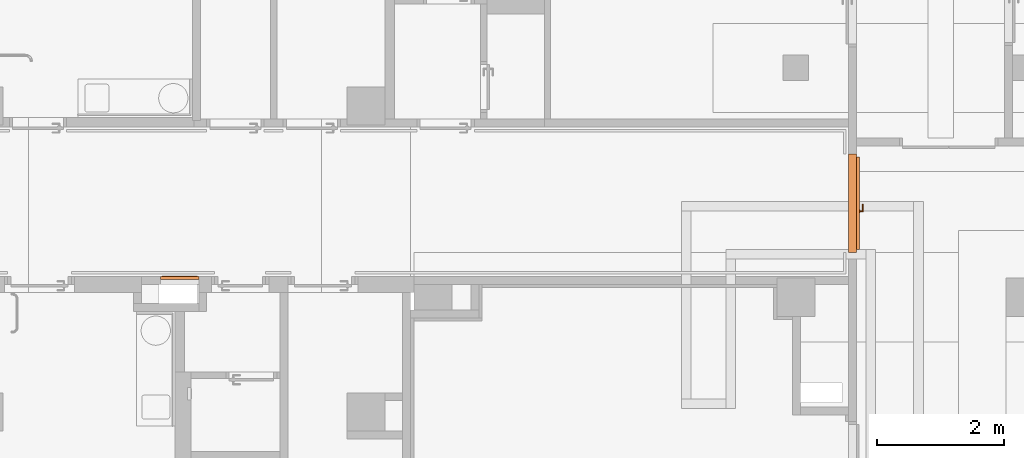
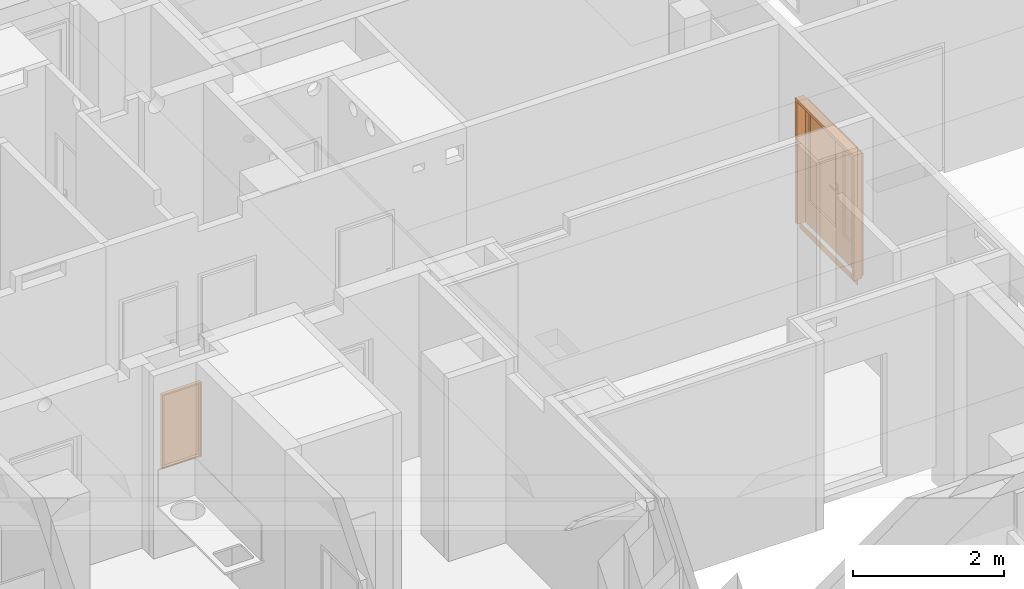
# One storey, part 84 of 84: 2 proxies.
"""IFC4 building model written with IfcOpenShell, lengths in metres."""

from ifc_helpers import new_model, entity, si_unit, converted_unit, derived_unit, frame, origin, origin_with_axes, place, context, subcontext, project, spatial, closed_shell, open_shell, faceted_brep, surface_model, source, transform, mapped, material, element, save


model = new_model("IFC4")

# Units and contexts
model_context = context("Model", 3, precision=1e-05, world=origin())
body_context = subcontext(model_context, "Body", "Model", "MODEL_VIEW")
ifc_project = project(units=[si_unit("LENGTHUNIT", "METRE"), si_unit("AREAUNIT", "SQUARE_METRE"), si_unit("VOLUMEUNIT", "CUBIC_METRE"), si_unit("MASSUNIT", "GRAM", prefix="KILO"), converted_unit("PLANEANGLEUNIT", "DEGREE", entity("IfcPlaneAngleMeasure", 0.0174532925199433), si_unit("PLANEANGLEUNIT", "RADIAN"), dimensions=[0, 0, 0, 0, 0, 0, 0]), derived_unit("THERMALTRANSMITTANCEUNIT", [(si_unit("POWERUNIT", "WATT"), 1), (si_unit("THERMODYNAMICTEMPERATUREUNIT", "KELVIN"), -1), (si_unit("LENGTHUNIT", "METRE"), -2)]), derived_unit("VOLUMETRICFLOWRATEUNIT", [(si_unit("LENGTHUNIT", "METRE"), 3), (converted_unit("TIMEUNIT", "hour", entity("IfcTimeMeasure", 3600.0), si_unit("TIMEUNIT", "SECOND"), dimensions=[0, 0, 1, 0, 0, 0, 0]), -1), (si_unit("LENGTHUNIT", "METRE"), -1)])], contexts=[model_context])

# Site, building, storey
site_placement = place(None, origin())
site = spatial("IfcSite", under=ifc_project, at=site_placement, Name="3. ASŘ", CompositionType="ELEMENT")
building_placement = place(site_placement, origin())
building = spatial("IfcBuilding", under=site, at=building_placement, Name="Pavilon C", CompositionType="ELEMENT")
storey_placement = place(building_placement, frame((0.0, 0.0, -3.3)))
storey = spatial("IfcBuildingStorey", under=building, at=storey_placement, Name="Půdorys 1.PP", CompositionType="ELEMENT", Elevation=-3.3)

# Proxies
ifc_material = material(Name="REVIZNÍ DVÍŘKA")
shared_shape_1 = source(origin_with_axes(), body_context, "Body", "Brep", [
    faceted_brep([(0.0, 0.0600000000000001, 1.2), (0.0, 0.06, 4.91096680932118e-19), (0.02, 0.06, 4.91096680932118e-19), (0.02, 0.0600000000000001, 1.2), (0.0, 0.01, 6.61433067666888e-18), (0.0, 0.0100000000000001, 1.2), (0.02, 0.0100000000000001, 1.2), (0.02, 0.01, 6.61433067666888e-18)], [[[0, 1, 2, 3]], [[4, 5, 6, 7]], [[1, 0, 5, 4]], [[2, 1, 4, 7]], [[3, 2, 7, 6]], [[0, 3, 6, 5]]], orient=[[False], [False], [False], [False], [False], [False]]),
    faceted_brep([(0.58, 0.0600000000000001, 1.2), (0.58, 0.06, 4.91096680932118e-19), (0.6, 0.06, 4.91096680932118e-19), (0.6, 0.0600000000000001, 1.2), (0.58, 0.01, 6.61433067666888e-18), (0.58, 0.0100000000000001, 1.2), (0.6, 0.0100000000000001, 1.2), (0.6, 0.01, 6.61433067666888e-18)], [[[0, 1, 2, 3]], [[4, 5, 6, 7]], [[1, 0, 5, 4]], [[2, 1, 4, 7]], [[3, 2, 7, 6]], [[0, 3, 6, 5]]], orient=[[False], [False], [False], [False], [False], [False]]),
    faceted_brep([(0.02, 0.06, 0.02), (0.02, 0.06, 4.91096680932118e-19), (0.58, 0.06, 4.91096680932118e-19), (0.58, 0.06, 0.02), (0.02, 0.01, 6.61433067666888e-18), (0.02, 0.01, 0.02), (0.58, 0.01, 0.02), (0.58, 0.01, 6.61433067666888e-18)], [[[0, 1, 2, 3]], [[4, 5, 6, 7]], [[1, 0, 5, 4]], [[2, 1, 4, 7]], [[3, 2, 7, 6]], [[0, 3, 6, 5]]], orient=[[False], [False], [False], [False], [False], [False]]),
    faceted_brep([(0.02, 0.0600000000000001, 1.2), (0.02, 0.0600000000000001, 1.18), (0.58, 0.0600000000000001, 1.18), (0.58, 0.0600000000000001, 1.2), (0.02, 0.0100000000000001, 1.18), (0.02, 0.0100000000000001, 1.2), (0.58, 0.0100000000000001, 1.2), (0.58, 0.0100000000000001, 1.18)], [[[0, 1, 2, 3]], [[4, 5, 6, 7]], [[1, 0, 5, 4]], [[2, 1, 4, 7]], [[3, 2, 7, 6]], [[0, 3, 6, 5]]], orient=[[False], [False], [False], [False], [False], [False]]),
    faceted_brep([(0.02, 0.0100000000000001, 1.18), (0.02, 0.01, 0.02), (0.58, 0.01, 0.02), (0.58, 0.0100000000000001, 1.18), (0.02, 0.0, 0.02), (0.02, 1.4210854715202e-16, 1.18), (0.58, 1.4210854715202e-16, 1.18), (0.58, 0.0, 0.02)], [[[0, 1, 2, 3]], [[4, 5, 6, 7]], [[1, 0, 5, 4]], [[2, 1, 4, 7]], [[3, 2, 7, 6]], [[0, 3, 6, 5]]], orient=[[False], [False], [False], [False], [False], [False]]),
])
proxy_1_placement = place(storey_placement, frame((21.375, 7.535, 1.0), z_axis=(0.0, 0.0, 1.0), x_axis=(-1.0, 1.22464679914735e-16, 0.0)))
element("IfcBuildingElementProxy", 1, at=proxy_1_placement, inside=storey, material=ifc_material, Name="I.Z6", context=body_context, shape_type="MappedRepresentation", body=[
    mapped(shared_shape_1, transform((0.0, 0.0, 0.0), x_axis=(1.0, 0.0, 0.0), y_axis=(0.0, 1.0, 0.0), z_axis=(0.0, 0.0, 1.0), scale=1.0)),
])
shared_shape_2 = source(origin_with_axes(), body_context, "Body", "SurfaceModel", [
    surface_model("IfcShellBasedSurfaceModel", [(0.0, 0.0625, 0.0), (1.55, 0.0625, 0.0), (1.55, 0.0625, 0.1), (0.0, 0.0625, 0.1)], [open_shell([[[0, 1, 2, 3]]], orient=[[False]])]),
    surface_model("IfcShellBasedSurfaceModel", [(0.0, 0.125, 2.12), (0.0, 0.125, 0.101), (0.05, 0.125, 0.101), (0.05, 0.125, 2.12), (0.0, 0.0, 0.101), (0.0, 2.41584530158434e-16, 2.12), (0.05, 2.41584530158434e-16, 2.12), (0.05, 0.0, 0.101)], [closed_shell([[[0, 1, 2, 3]], [[4, 5, 6, 7]], [[1, 0, 5, 4]], [[2, 1, 4, 7]], [[3, 2, 7, 6]], [[0, 3, 6, 5]]], orient=[[False], [False], [False], [False], [False], [False]])]),
    surface_model("IfcShellBasedSurfaceModel", [(1.5, 0.125, 2.12), (1.5, 0.125, 0.101), (1.55, 0.125, 0.101), (1.55, 0.125, 2.12), (1.5, 0.0, 0.101), (1.5, 2.41584530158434e-16, 2.12), (1.55, 2.41584530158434e-16, 2.12), (1.55, 0.0, 0.101)], [closed_shell([[[0, 1, 2, 3]], [[4, 5, 6, 7]], [[1, 0, 5, 4]], [[2, 1, 4, 7]], [[3, 2, 7, 6]], [[0, 3, 6, 5]]], orient=[[False], [False], [False], [False], [False], [False]])]),
    surface_model("IfcShellBasedSurfaceModel", [(0.05, 0.125, 2.12), (0.05, 0.125, 2.07), (1.5, 0.125, 2.07), (1.5, 0.125, 2.12), (0.05, 2.41584530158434e-16, 2.07), (0.05, 2.41584530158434e-16, 2.12), (1.5, 2.41584530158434e-16, 2.12), (1.5, 2.41584530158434e-16, 2.07)], [closed_shell([[[0, 1, 2, 3]], [[4, 5, 6, 7]], [[1, 0, 5, 4]], [[2, 1, 4, 7]], [[3, 2, 7, 6]], [[0, 3, 6, 5]]], orient=[[False], [False], [False], [False], [False], [False]])]),
    surface_model("IfcShellBasedSurfaceModel", [(0.05, 0.175, 2.07), (0.05, 0.175, 0.101), (0.15, 0.175, 0.101), (0.15, 0.175, 2.07), (0.05, 0.125, 0.101), (0.05, 0.125, 2.07), (0.15, 0.125, 2.07), (0.15, 0.125, 0.101)], [closed_shell([[[0, 1, 2, 3]], [[4, 5, 6, 7]], [[1, 0, 5, 4]], [[2, 1, 4, 7]], [[3, 2, 7, 6]], [[0, 3, 6, 5]]], orient=[[False], [False], [False], [False], [False], [False]])]),
    surface_model("IfcShellBasedSurfaceModel", [(0.85, 0.175, 2.07), (0.85, 0.175, 0.101), (0.95, 0.175, 0.101), (0.95, 0.175, 2.07), (0.85, 0.125, 0.101), (0.85, 0.125, 2.07), (0.95, 0.125, 2.07), (0.95, 0.125, 0.101)], [closed_shell([[[0, 1, 2, 3]], [[4, 5, 6, 7]], [[1, 0, 5, 4]], [[2, 1, 4, 7]], [[3, 2, 7, 6]], [[0, 3, 6, 5]]], orient=[[False], [False], [False], [False], [False], [False]])]),
    surface_model("IfcShellBasedSurfaceModel", [(0.15, 0.175, 0.501), (0.15, 0.175, 0.101), (0.85, 0.175, 0.101), (0.85, 0.175, 0.501), (0.15, 0.125, 0.101), (0.15, 0.125, 0.501), (0.85, 0.125, 0.501), (0.85, 0.125, 0.101)], [closed_shell([[[0, 1, 2, 3]], [[4, 5, 6, 7]], [[1, 0, 5, 4]], [[2, 1, 4, 7]], [[3, 2, 7, 6]], [[0, 3, 6, 5]]], orient=[[False], [False], [False], [False], [False], [False]])]),
    surface_model("IfcShellBasedSurfaceModel", [(0.15, 0.175, 2.07), (0.15, 0.175, 1.97), (0.85, 0.175, 1.97), (0.85, 0.175, 2.07), (0.15, 0.125, 1.97), (0.15, 0.125, 2.07), (0.85, 0.125, 2.07), (0.85, 0.125, 1.97)], [closed_shell([[[0, 1, 2, 3]], [[4, 5, 6, 7]], [[1, 0, 5, 4]], [[2, 1, 4, 7]], [[3, 2, 7, 6]], [[0, 3, 6, 5]]], orient=[[False], [False], [False], [False], [False], [False]])]),
    surface_model("IfcShellBasedSurfaceModel", [(0.875, 0.125, 1.226), (0.875, 0.125, 1.011), (0.925, 0.125, 1.011), (0.925, 0.125, 1.226), (0.875, 0.115, 1.011), (0.875, 0.115, 1.226), (0.925, 0.115, 1.226), (0.925, 0.115, 1.011)], [closed_shell([[[0, 1, 2, 3]], [[4, 5, 6, 7]], [[1, 0, 5, 4]], [[2, 1, 4, 7]], [[3, 2, 7, 6]], [[0, 3, 6, 5]]], orient=[[False], [False], [False], [False], [False], [False]])]),
    surface_model("IfcShellBasedSurfaceModel", [(0.9, 0.115, 1.161), (0.895, 0.115, 1.15966025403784), (0.891339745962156, 0.115, 1.156), (0.89, 0.115, 1.151), (0.891339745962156, 0.115, 1.146), (0.895, 0.115, 1.14233974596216), (0.9, 0.115, 1.141), (0.905, 0.115, 1.14233974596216), (0.908660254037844, 0.115, 1.146), (0.91, 0.115, 1.151), (0.908660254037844, 0.115, 1.156), (0.905, 0.115, 1.15966025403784), (0.905, 0.0700000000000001, 1.15966025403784), (0.9, 0.0750000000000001, 1.161), (0.908660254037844, 0.0663397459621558, 1.156), (0.91, 0.0650000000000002, 1.151), (0.908660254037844, 0.0663397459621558, 1.146), (0.905, 0.0700000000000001, 1.14233974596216), (0.9, 0.0750000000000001, 1.141), (0.895, 0.0800000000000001, 1.14233974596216), (0.891339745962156, 0.0836602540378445, 1.146), (0.89, 0.0850000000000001, 1.151), (0.891339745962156, 0.0836602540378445, 1.156), (0.895, 0.0800000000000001, 1.15966025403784), (0.785, 0.0700000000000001, 1.15966025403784), (0.785, 0.0750000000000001, 1.161), (0.785, 0.0663397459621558, 1.156), (0.785, 0.0650000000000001, 1.151), (0.785, 0.0663397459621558, 1.146), (0.785, 0.0700000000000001, 1.14233974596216), (0.785, 0.0750000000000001, 1.141), (0.785, 0.0800000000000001, 1.14233974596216), (0.785, 0.0836602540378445, 1.146), (0.785, 0.0850000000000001, 1.151), (0.785, 0.0836602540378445, 1.156), (0.785, 0.0800000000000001, 1.15966025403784)], [open_shell([[[0, 1, 2, 3, 4, 5, 6, 7, 8, 9, 10, 11]], [[0, 11, 12, 13]], [[11, 10, 14, 12]], [[10, 9, 15, 14]], [[9, 8, 16, 15]], [[8, 7, 17, 16]], [[7, 6, 18, 17]], [[6, 5, 19, 18]], [[5, 4, 20, 19]], [[4, 3, 21, 20]], [[3, 2, 22, 21]], [[2, 1, 23, 22]], [[1, 0, 13, 23]], [[13, 12, 24, 25]], [[12, 14, 26, 24]], [[14, 15, 27, 26]], [[15, 16, 28, 27]], [[16, 17, 29, 28]], [[17, 18, 30, 29]], [[18, 19, 31, 30]], [[19, 20, 32, 31]], [[20, 21, 33, 32]], [[21, 22, 34, 33]], [[22, 23, 35, 34]], [[23, 13, 25, 35]]], orient=[[False], [False], [False], [False], [False], [False], [False], [False], [False], [False], [False], [False], [False], [False], [False], [False], [False], [False], [False], [False], [False], [False], [False], [False], [False]])]),
    surface_model("IfcShellBasedSurfaceModel", [(0.875, 0.175, 1.226), (0.925, 0.175, 1.226), (0.925, 0.175, 1.011), (0.875, 0.175, 1.011), (0.875, 0.185, 1.011), (0.925, 0.185, 1.011), (0.925, 0.185, 1.226), (0.875, 0.185, 1.226)], [closed_shell([[[0, 1, 2, 3]], [[4, 5, 6, 7]], [[3, 4, 7, 0]], [[2, 5, 4, 3]], [[1, 6, 5, 2]], [[0, 7, 6, 1]]], orient=[[False], [False], [False], [False], [False], [False]])]),
    surface_model("IfcShellBasedSurfaceModel", [(0.9, 0.185, 1.161), (0.905, 0.185, 1.15966025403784), (0.908660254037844, 0.185, 1.156), (0.91, 0.185, 1.151), (0.908660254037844, 0.185, 1.146), (0.905, 0.185, 1.14233974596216), (0.9, 0.185, 1.141), (0.895, 0.185, 1.14233974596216), (0.891339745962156, 0.185, 1.146), (0.89, 0.185, 1.151), (0.891339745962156, 0.185, 1.156), (0.895, 0.185, 1.15966025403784), (0.9, 0.225, 1.161), (0.905, 0.23, 1.15966025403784), (0.908660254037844, 0.233660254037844, 1.156), (0.91, 0.235, 1.151), (0.908660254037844, 0.233660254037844, 1.146), (0.905, 0.23, 1.14233974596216), (0.9, 0.225, 1.141), (0.895, 0.22, 1.14233974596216), (0.891339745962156, 0.216339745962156, 1.146), (0.89, 0.215, 1.151), (0.891339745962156, 0.216339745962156, 1.156), (0.895, 0.22, 1.15966025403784), (0.785, 0.225, 1.161), (0.785, 0.23, 1.15966025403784), (0.785, 0.233660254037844, 1.156), (0.785, 0.235, 1.151), (0.785, 0.233660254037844, 1.146), (0.785, 0.23, 1.14233974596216), (0.785, 0.225, 1.141), (0.785, 0.22, 1.14233974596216), (0.785, 0.216339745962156, 1.146), (0.785, 0.215, 1.151), (0.785, 0.216339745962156, 1.156), (0.785, 0.22, 1.15966025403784)], [open_shell([[[0, 1, 2, 3, 4, 5, 6, 7, 8, 9, 10, 11]], [[0, 12, 13, 1]], [[1, 13, 14, 2]], [[2, 14, 15, 3]], [[3, 15, 16, 4]], [[4, 16, 17, 5]], [[5, 17, 18, 6]], [[6, 18, 19, 7]], [[7, 19, 20, 8]], [[8, 20, 21, 9]], [[9, 21, 22, 10]], [[10, 22, 23, 11]], [[11, 23, 12, 0]], [[12, 24, 25, 13]], [[13, 25, 26, 14]], [[14, 26, 27, 15]], [[15, 27, 28, 16]], [[16, 28, 29, 17]], [[17, 29, 30, 18]], [[18, 30, 31, 19]], [[19, 31, 32, 20]], [[20, 32, 33, 21]], [[21, 33, 34, 22]], [[22, 34, 35, 23]], [[23, 35, 24, 12]]], orient=[[False], [False], [False], [False], [False], [False], [False], [False], [False], [False], [False], [False], [False], [False], [False], [False], [False], [False], [False], [False], [False], [False], [False], [False], [False]])]),
    surface_model("IfcShellBasedSurfaceModel", [(0.951, 0.175, 2.07), (0.951, 0.175, 0.101), (1.051, 0.175, 0.101), (1.051, 0.175, 2.07), (0.951, 0.125, 0.101), (0.951, 0.125, 2.07), (1.051, 0.125, 2.07), (1.051, 0.125, 0.101)], [closed_shell([[[0, 1, 2, 3]], [[4, 5, 6, 7]], [[1, 0, 5, 4]], [[2, 1, 4, 7]], [[3, 2, 7, 6]], [[0, 3, 6, 5]]], orient=[[False], [False], [False], [False], [False], [False]])]),
    surface_model("IfcShellBasedSurfaceModel", [(1.4, 0.175, 2.07), (1.4, 0.175, 0.101), (1.5, 0.175, 0.101), (1.5, 0.175, 2.07), (1.4, 0.125, 0.101), (1.4, 0.125, 2.07), (1.5, 0.125, 2.07), (1.5, 0.125, 0.101)], [closed_shell([[[0, 1, 2, 3]], [[4, 5, 6, 7]], [[1, 0, 5, 4]], [[2, 1, 4, 7]], [[3, 2, 7, 6]], [[0, 3, 6, 5]]], orient=[[False], [False], [False], [False], [False], [False]])]),
    surface_model("IfcShellBasedSurfaceModel", [(1.051, 0.175, 0.501), (1.051, 0.175, 0.101), (1.4, 0.175, 0.101), (1.4, 0.175, 0.501), (1.051, 0.125, 0.101), (1.051, 0.125, 0.501), (1.4, 0.125, 0.501), (1.4, 0.125, 0.101)], [closed_shell([[[0, 1, 2, 3]], [[4, 5, 6, 7]], [[1, 0, 5, 4]], [[2, 1, 4, 7]], [[3, 2, 7, 6]], [[0, 3, 6, 5]]], orient=[[False], [False], [False], [False], [False], [False]])]),
    surface_model("IfcShellBasedSurfaceModel", [(1.051, 0.175, 2.07), (1.051, 0.175, 1.97), (1.4, 0.175, 1.97), (1.4, 0.175, 2.07), (1.051, 0.125, 1.97), (1.051, 0.125, 2.07), (1.4, 0.125, 2.07), (1.4, 0.125, 1.97)], [closed_shell([[[0, 1, 2, 3]], [[4, 5, 6, 7]], [[1, 0, 5, 4]], [[2, 1, 4, 7]], [[3, 2, 7, 6]], [[0, 3, 6, 5]]], orient=[[False], [False], [False], [False], [False], [False]])]),
    surface_model("IfcShellBasedSurfaceModel", [(0.15, 0.15, 0.501), (0.85, 0.15, 0.501), (0.85, 0.15, 1.97), (0.15, 0.15, 1.97)], [open_shell([[[0, 1, 2, 3]]], orient=[[False]])]),
    surface_model("IfcShellBasedSurfaceModel", [(1.051, 0.15, 0.501), (1.4, 0.15, 0.501), (1.4, 0.15, 1.97), (1.051, 0.15, 1.97)], [open_shell([[[0, 1, 2, 3]]], orient=[[False]])]),
])
proxy_2_placement = place(storey_placement, frame((31.575, 9.44999999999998, -0.1), z_axis=(0.0, 0.0, 1.0), x_axis=(1.22464679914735e-16, -1.0, 0.0)))
element("IfcBuildingElementProxy", 2, at=proxy_2_placement, inside=storey, Name="I.D016", context=body_context, shape_type="MappedRepresentation", body=[
    mapped(shared_shape_2, transform((0.0, 0.0, 0.0), x_axis=(1.0, 0.0, 0.0), y_axis=(0.0, 1.0, 0.0), z_axis=(0.0, 0.0, 1.0), scale=1.0)),
])

save(model, "model.ifc")
